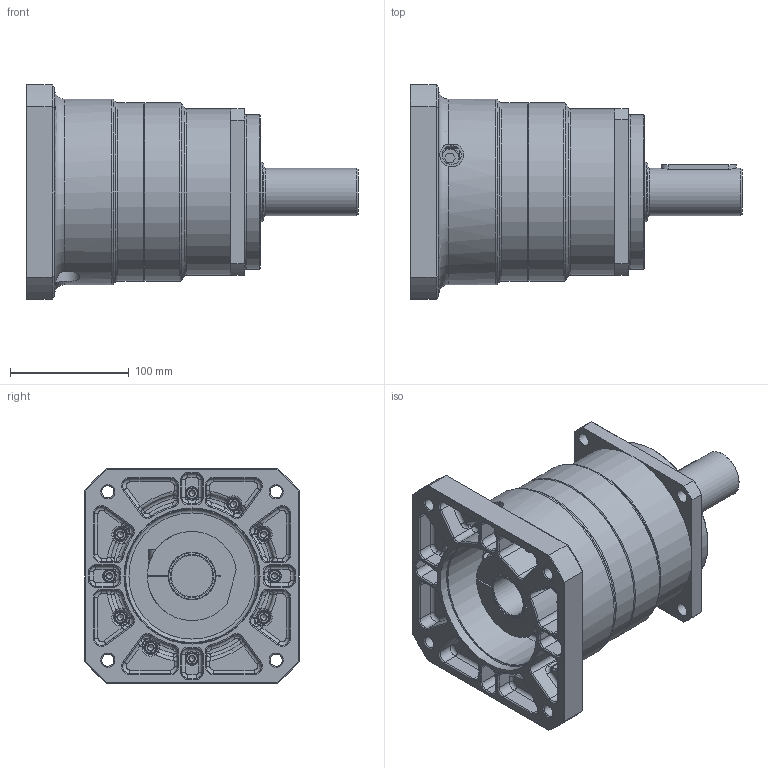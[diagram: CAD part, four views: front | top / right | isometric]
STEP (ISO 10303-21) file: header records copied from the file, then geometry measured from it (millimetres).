
FILE_DESCRIPTION(/* description */ (''),/* implementation_level */ '2;1');
FILE_NAME(/* name */ 'WEB140-L1-标准30C.stp',/* time_stamp */ '2025-06-26T11:37:45+08:00',/* author */ (''),/* organization */ (''),/* preprocessor_version */ 'ST-DEVELOPER v16.7',/* originating_system */ 'SIEMENS PLM Software NX 12.0',/* authorisation */ '');
FILE_SCHEMA (('AUTOMOTIVE_DESIGN { 1 0 10303 214 3 1 1 1 }'));
Length unit declared in the file: millimetre
Products named in the file (1): WXHQ2C887B7Dfsxg
Bounding box: 279 x 180 x 180 mm (x, y, z)
Volume: 3094923.8 mm3; surface area: 345087.4 mm2
Topology: 4 solids, 4 shells, 957 faces, 2096 edges, 1191 vertices
Faces by surface type: plane 301, cylinder 283, torus 169, cone 111, bspline 77, sphere 16
Full cylindrical faces by diameter (mm): 5.795 x10, 6.5 x10, 10 x11, 10.3 x4, 10.5 x1, 11 x4, 11.5 x10, 13.835 x1, 16 x3, 16.1 x1, 17 x1, 35 x1, 40 x2, 43.5 x1, 50 x1, 60 x2, 110 x1, 112 x1, 114.3 x1, 130 x1, 140 x1, 150 x2, 156 x1
Entity records: 26989 total; most frequent: CARTESIAN_POINT 6291, DIRECTION 4525, ORIENTED_EDGE 3766, AXIS2_PLACEMENT_3D 1949, EDGE_CURVE 1883, EDGE_LOOP 1184, VERTEX_POINT 1148, CIRCLE 1068
